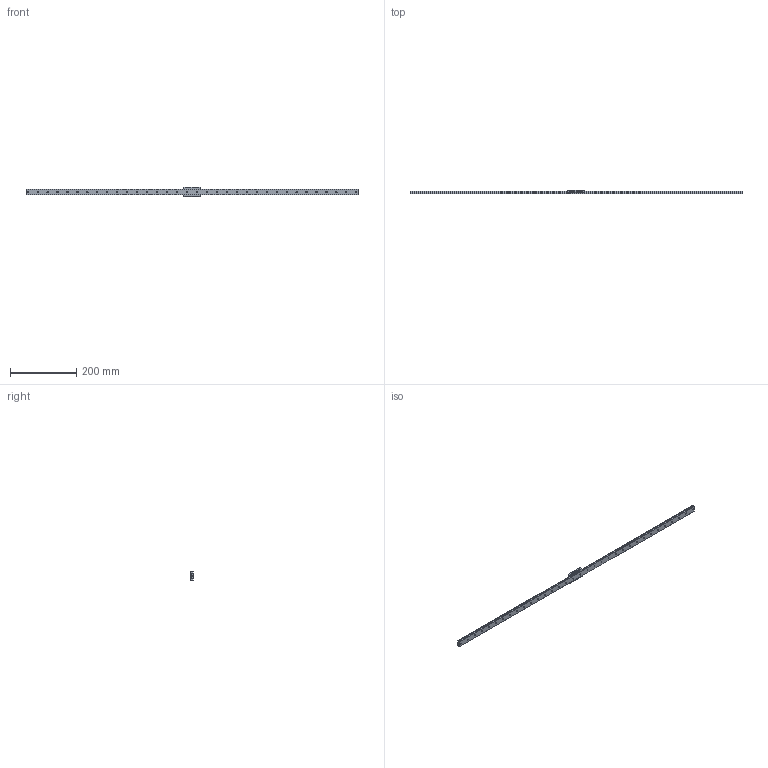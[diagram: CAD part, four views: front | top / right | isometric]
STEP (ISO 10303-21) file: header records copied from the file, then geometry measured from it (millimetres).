
FILE_DESCRIPTION( ( '' ), '1' );
FILE_NAME( 'C:/Users/v3-771-32344/Documents/Website 2016/STEP/SRS9WN1UU100050 474.65000.stp', '2016-11-10T13:11:55', ( '' ), ( '' ), ' ', ' ', ' ' );
FILE_SCHEMA( ( 'CONFIG_CONTROL_DESIGN' ) );
Length unit declared in the file: millimetre
Products named in the file (2): 1; 2
Bounding box: 1000 x 12 x 30 mm (x, y, z)
Volume: 136966.9 mm3; surface area: 59535.7 mm2
Topology: 2 solids, 2 shells, 308 faces, 776 edges, 504 vertices
Faces by surface type: cylinder 180, plane 112, cone 16
Entity records: 9532 total; most frequent: DIRECTION 1756, CARTESIAN_POINT 1582, ORIENTED_EDGE 1536, EDGE_CURVE 768, AXIS2_PLACEMENT_3D 678, VERTEX_POINT 504, EDGE_LOOP 416, LINE 400
